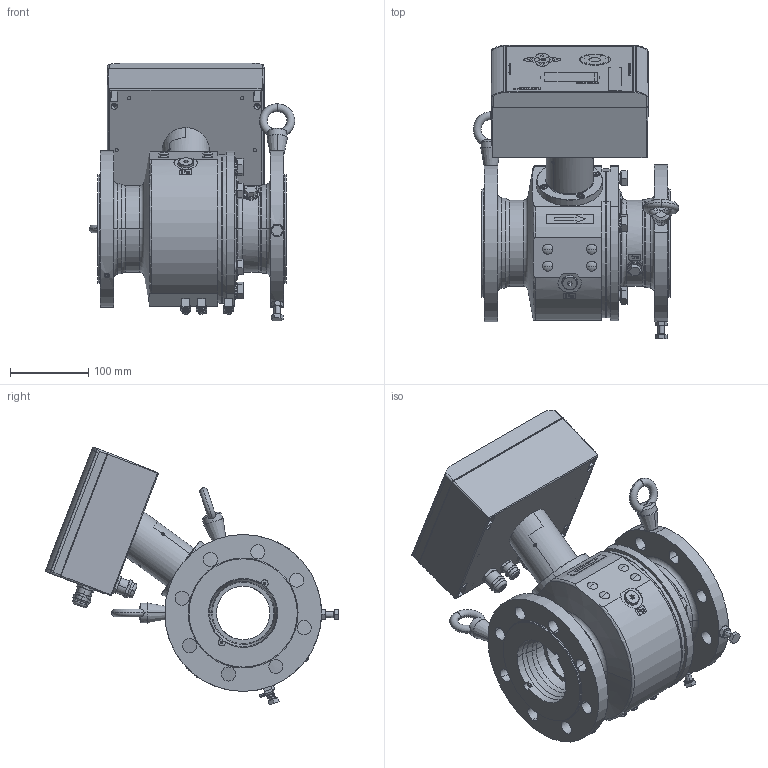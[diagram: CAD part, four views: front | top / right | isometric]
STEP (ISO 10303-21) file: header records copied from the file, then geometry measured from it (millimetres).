
FILE_DESCRIPTION((''),'2;1');
FILE_NAME('STANDARD_SW0001_RE_PN','2023-09-11T07:04:27',('R85801'),(''),'CREO PARAMETRIC BY PTC INC, 2022281','CREO PARAMETRIC BY PTC INC, 2022281','');
FILE_SCHEMA(('AP242_MANAGED_MODEL_BASED_3D_ENGINEERING_MIM_LF { 1 0 10303 442 1 1 4 }'));
Length unit declared in the file: millimetre
Products named in the file (2): STANDARD_SW0001_RE_PN; 10038_S235JRG2
Bounding box: 261.97 x 374.16 x 328.76 mm (x, y, z)
Volume: 4323783.6 mm3; surface area: 775302.9 mm2
Topology: 12 solids, 22 shells, 3911 faces, 9891 edges, 6284 vertices
Faces by surface type: plane 1880, cylinder 677, extrusion 632, cone 372, torus 280, sphere 40, bspline 30
Entity records: 186379 total; most frequent: CARTESIAN_POINT 30061, ORIENTED_EDGE 19662, DIRECTION 17849, PRESENTATION_STYLE_ASSIGNMENT 14278, STYLED_ITEM 10480, CURVE_STYLE 10467, EDGE_CURVE 9831, VECTOR 6497
